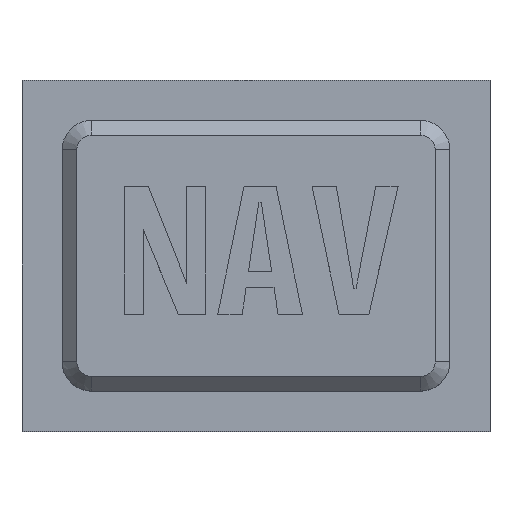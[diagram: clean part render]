
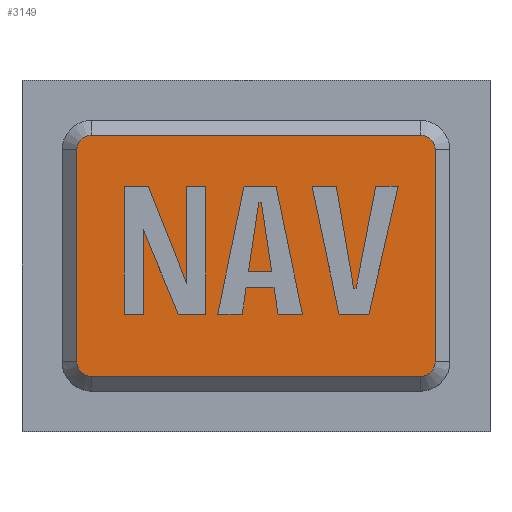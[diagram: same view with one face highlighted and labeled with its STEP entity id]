
A CAD part, top view. The second image highlights one B-rep face of the part: STEP entity #3149.
In plain terms, the highlighted planar face has unit normal (0, 0, 1).
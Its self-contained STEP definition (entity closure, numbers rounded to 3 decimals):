
#2484 = PLANE('',#2485);
#2485 = AXIS2_PLACEMENT_3D('',#2486,#2487,#2488);
#2486 = CARTESIAN_POINT('',(2.375,1.625,4.25));
#2487 = DIRECTION('',(0.,0.707,-0.707));
#2488 = DIRECTION('',(-1.,-0.,-0.));
#2625 = CONICAL_SURFACE('',#2626,1.,0.785);
#2626 = AXIS2_PLACEMENT_3D('',#2627,#2628,#2629);
#2627 = CARTESIAN_POINT('',(2.375,2.375,4.));
#2628 = DIRECTION('',(-0.,-0.,-1.));
#2629 = DIRECTION('',(-1.,0.,0.));
#2641 = VERTEX_POINT('',#2642);
#2642 = CARTESIAN_POINT('',(2.375,1.875,4.5));
#2665 = VERTEX_POINT('',#2666);
#2666 = CARTESIAN_POINT('',(13.625,1.875,4.5));
#2680 = CONICAL_SURFACE('',#2681,1.,0.785);
#2681 = AXIS2_PLACEMENT_3D('',#2682,#2683,#2684);
#2682 = CARTESIAN_POINT('',(13.625,2.375,4.));
#2683 = DIRECTION('',(-0.,-0.,-1.));
#2684 = DIRECTION('',(0.,-1.,0.));
#2692 = EDGE_CURVE('',#2641,#2665,#2693,.T.);
#2693 = SURFACE_CURVE('',#2694,(#2698,#2705),.PCURVE_S1.);
#2694 = LINE('',#2695,#2696);
#2695 = CARTESIAN_POINT('',(2.375,1.875,4.5));
#2696 = VECTOR('',#2697,1.);
#2697 = DIRECTION('',(1.,0.,0.));
#2698 = PCURVE('',#2484,#2699);
#2699 = DEFINITIONAL_REPRESENTATION('',(#2700),#2704);
#2700 = LINE('',#2701,#2702);
#2701 = CARTESIAN_POINT('',(-0.,0.354));
#2702 = VECTOR('',#2703,1.);
#2703 = DIRECTION('',(-1.,0.));
#2704 = ( GEOMETRIC_REPRESENTATION_CONTEXT(2) 
PARAMETRIC_REPRESENTATION_CONTEXT() REPRESENTATION_CONTEXT('2D SPACE',''
  ) );
#2705 = PCURVE('',#2706,#2711);
#2706 = PLANE('',#2707);
#2707 = AXIS2_PLACEMENT_3D('',#2708,#2709,#2710);
#2708 = CARTESIAN_POINT('',(8.,6.,4.5));
#2709 = DIRECTION('',(0.,0.,1.));
#2710 = DIRECTION('',(1.,0.,0.));
#2711 = DEFINITIONAL_REPRESENTATION('',(#2712),#2716);
#2712 = LINE('',#2713,#2714);
#2713 = CARTESIAN_POINT('',(-5.625,-4.125));
#2714 = VECTOR('',#2715,1.);
#2715 = DIRECTION('',(1.,0.));
#2716 = ( GEOMETRIC_REPRESENTATION_CONTEXT(2) 
PARAMETRIC_REPRESENTATION_CONTEXT() REPRESENTATION_CONTEXT('2D SPACE',''
  ) );
#3050 = VERTEX_POINT('',#3051);
#3051 = CARTESIAN_POINT('',(1.875,2.375,4.5));
#3065 = PLANE('',#3066);
#3066 = AXIS2_PLACEMENT_3D('',#3067,#3068,#3069);
#3067 = CARTESIAN_POINT('',(1.625,9.625,4.25));
#3068 = DIRECTION('',(0.707,0.,-0.707));
#3069 = DIRECTION('',(0.,1.,0.));
#3079 = EDGE_CURVE('',#3050,#2641,#3080,.T.);
#3080 = SURFACE_CURVE('',#3081,(#3086,#3093),.PCURVE_S1.);
#3081 = CIRCLE('',#3082,0.5);
#3082 = AXIS2_PLACEMENT_3D('',#3083,#3084,#3085);
#3083 = CARTESIAN_POINT('',(2.375,2.375,4.5));
#3084 = DIRECTION('',(0.,0.,1.));
#3085 = DIRECTION('',(-1.,0.,0.));
#3086 = PCURVE('',#2625,#3087);
#3087 = DEFINITIONAL_REPRESENTATION('',(#3088),#3092);
#3088 = LINE('',#3089,#3090);
#3089 = CARTESIAN_POINT('',(-0.,-0.5));
#3090 = VECTOR('',#3091,1.);
#3091 = DIRECTION('',(-1.,-0.));
#3092 = ( GEOMETRIC_REPRESENTATION_CONTEXT(2) 
PARAMETRIC_REPRESENTATION_CONTEXT() REPRESENTATION_CONTEXT('2D SPACE',''
  ) );
#3093 = PCURVE('',#2706,#3094);
#3094 = DEFINITIONAL_REPRESENTATION('',(#3095),#3099);
#3095 = CIRCLE('',#3096,0.5);
#3096 = AXIS2_PLACEMENT_2D('',#3097,#3098);
#3097 = CARTESIAN_POINT('',(-5.625,-3.625));
#3098 = DIRECTION('',(-1.,0.));
#3099 = ( GEOMETRIC_REPRESENTATION_CONTEXT(2) 
PARAMETRIC_REPRESENTATION_CONTEXT() REPRESENTATION_CONTEXT('2D SPACE',''
  ) );
#3149 = ADVANCED_FACE('',(#3150),#2706,.T.);
#3150 = FACE_BOUND('',#3151,.T.);
#3151 = EDGE_LOOP('',(#3152,#3182,#3211,#3232,#3233,#3234,#3258,#3286));
#3152 = ORIENTED_EDGE('',*,*,#3153,.T.);
#3153 = EDGE_CURVE('',#3154,#3156,#3158,.T.);
#3154 = VERTEX_POINT('',#3155);
#3155 = CARTESIAN_POINT('',(13.625,10.125,4.5));
#3156 = VERTEX_POINT('',#3157);
#3157 = CARTESIAN_POINT('',(2.375,10.125,4.5));
#3158 = SURFACE_CURVE('',#3159,(#3163,#3170),.PCURVE_S1.);
#3159 = LINE('',#3160,#3161);
#3160 = CARTESIAN_POINT('',(13.625,10.125,4.5));
#3161 = VECTOR('',#3162,1.);
#3162 = DIRECTION('',(-1.,0.,0.));
#3163 = PCURVE('',#2706,#3164);
#3164 = DEFINITIONAL_REPRESENTATION('',(#3165),#3169);
#3165 = LINE('',#3166,#3167);
#3166 = CARTESIAN_POINT('',(5.625,4.125));
#3167 = VECTOR('',#3168,1.);
#3168 = DIRECTION('',(-1.,0.));
#3169 = ( GEOMETRIC_REPRESENTATION_CONTEXT(2) 
PARAMETRIC_REPRESENTATION_CONTEXT() REPRESENTATION_CONTEXT('2D SPACE',''
  ) );
#3170 = PCURVE('',#3171,#3176);
#3171 = PLANE('',#3172);
#3172 = AXIS2_PLACEMENT_3D('',#3173,#3174,#3175);
#3173 = CARTESIAN_POINT('',(13.625,10.375,4.25));
#3174 = DIRECTION('',(0.,-0.707,-0.707));
#3175 = DIRECTION('',(1.,0.,0.));
#3176 = DEFINITIONAL_REPRESENTATION('',(#3177),#3181);
#3177 = LINE('',#3178,#3179);
#3178 = CARTESIAN_POINT('',(-0.,0.354));
#3179 = VECTOR('',#3180,1.);
#3180 = DIRECTION('',(-1.,0.));
#3181 = ( GEOMETRIC_REPRESENTATION_CONTEXT(2) 
PARAMETRIC_REPRESENTATION_CONTEXT() REPRESENTATION_CONTEXT('2D SPACE',''
  ) );
#3182 = ORIENTED_EDGE('',*,*,#3183,.T.);
#3183 = EDGE_CURVE('',#3156,#3184,#3186,.T.);
#3184 = VERTEX_POINT('',#3185);
#3185 = CARTESIAN_POINT('',(1.875,9.625,4.5));
#3186 = SURFACE_CURVE('',#3187,(#3192,#3199),.PCURVE_S1.);
#3187 = CIRCLE('',#3188,0.5);
#3188 = AXIS2_PLACEMENT_3D('',#3189,#3190,#3191);
#3189 = CARTESIAN_POINT('',(2.375,9.625,4.5));
#3190 = DIRECTION('',(0.,-0.,1.));
#3191 = DIRECTION('',(0.,1.,0.));
#3192 = PCURVE('',#2706,#3193);
#3193 = DEFINITIONAL_REPRESENTATION('',(#3194),#3198);
#3194 = CIRCLE('',#3195,0.5);
#3195 = AXIS2_PLACEMENT_2D('',#3196,#3197);
#3196 = CARTESIAN_POINT('',(-5.625,3.625));
#3197 = DIRECTION('',(0.,1.));
#3198 = ( GEOMETRIC_REPRESENTATION_CONTEXT(2) 
PARAMETRIC_REPRESENTATION_CONTEXT() REPRESENTATION_CONTEXT('2D SPACE',''
  ) );
#3199 = PCURVE('',#3200,#3205);
#3200 = CONICAL_SURFACE('',#3201,1.,0.785);
#3201 = AXIS2_PLACEMENT_3D('',#3202,#3203,#3204);
#3202 = CARTESIAN_POINT('',(2.375,9.625,4.));
#3203 = DIRECTION('',(-0.,-0.,-1.));
#3204 = DIRECTION('',(0.,1.,0.));
#3205 = DEFINITIONAL_REPRESENTATION('',(#3206),#3210);
#3206 = LINE('',#3207,#3208);
#3207 = CARTESIAN_POINT('',(-0.,-0.5));
#3208 = VECTOR('',#3209,1.);
#3209 = DIRECTION('',(-1.,-0.));
#3210 = ( GEOMETRIC_REPRESENTATION_CONTEXT(2) 
PARAMETRIC_REPRESENTATION_CONTEXT() REPRESENTATION_CONTEXT('2D SPACE',''
  ) );
#3211 = ORIENTED_EDGE('',*,*,#3212,.T.);
#3212 = EDGE_CURVE('',#3184,#3050,#3213,.T.);
#3213 = SURFACE_CURVE('',#3214,(#3218,#3225),.PCURVE_S1.);
#3214 = LINE('',#3215,#3216);
#3215 = CARTESIAN_POINT('',(1.875,9.625,4.5));
#3216 = VECTOR('',#3217,1.);
#3217 = DIRECTION('',(0.,-1.,0.));
#3218 = PCURVE('',#2706,#3219);
#3219 = DEFINITIONAL_REPRESENTATION('',(#3220),#3224);
#3220 = LINE('',#3221,#3222);
#3221 = CARTESIAN_POINT('',(-6.125,3.625));
#3222 = VECTOR('',#3223,1.);
#3223 = DIRECTION('',(0.,-1.));
#3224 = ( GEOMETRIC_REPRESENTATION_CONTEXT(2) 
PARAMETRIC_REPRESENTATION_CONTEXT() REPRESENTATION_CONTEXT('2D SPACE',''
  ) );
#3225 = PCURVE('',#3065,#3226);
#3226 = DEFINITIONAL_REPRESENTATION('',(#3227),#3231);
#3227 = LINE('',#3228,#3229);
#3228 = CARTESIAN_POINT('',(-0.,0.354));
#3229 = VECTOR('',#3230,1.);
#3230 = DIRECTION('',(-1.,0.));
#3231 = ( GEOMETRIC_REPRESENTATION_CONTEXT(2) 
PARAMETRIC_REPRESENTATION_CONTEXT() REPRESENTATION_CONTEXT('2D SPACE',''
  ) );
#3232 = ORIENTED_EDGE('',*,*,#3079,.T.);
#3233 = ORIENTED_EDGE('',*,*,#2692,.T.);
#3234 = ORIENTED_EDGE('',*,*,#3235,.T.);
#3235 = EDGE_CURVE('',#2665,#3236,#3238,.T.);
#3236 = VERTEX_POINT('',#3237);
#3237 = CARTESIAN_POINT('',(14.125,2.375,4.5));
#3238 = SURFACE_CURVE('',#3239,(#3244,#3251),.PCURVE_S1.);
#3239 = CIRCLE('',#3240,0.5);
#3240 = AXIS2_PLACEMENT_3D('',#3241,#3242,#3243);
#3241 = CARTESIAN_POINT('',(13.625,2.375,4.5));
#3242 = DIRECTION('',(-0.,0.,1.));
#3243 = DIRECTION('',(0.,-1.,0.));
#3244 = PCURVE('',#2706,#3245);
#3245 = DEFINITIONAL_REPRESENTATION('',(#3246),#3250);
#3246 = CIRCLE('',#3247,0.5);
#3247 = AXIS2_PLACEMENT_2D('',#3248,#3249);
#3248 = CARTESIAN_POINT('',(5.625,-3.625));
#3249 = DIRECTION('',(0.,-1.));
#3250 = ( GEOMETRIC_REPRESENTATION_CONTEXT(2) 
PARAMETRIC_REPRESENTATION_CONTEXT() REPRESENTATION_CONTEXT('2D SPACE',''
  ) );
#3251 = PCURVE('',#2680,#3252);
#3252 = DEFINITIONAL_REPRESENTATION('',(#3253),#3257);
#3253 = LINE('',#3254,#3255);
#3254 = CARTESIAN_POINT('',(-0.,-0.5));
#3255 = VECTOR('',#3256,1.);
#3256 = DIRECTION('',(-1.,-0.));
#3257 = ( GEOMETRIC_REPRESENTATION_CONTEXT(2) 
PARAMETRIC_REPRESENTATION_CONTEXT() REPRESENTATION_CONTEXT('2D SPACE',''
  ) );
#3258 = ORIENTED_EDGE('',*,*,#3259,.T.);
#3259 = EDGE_CURVE('',#3236,#3260,#3262,.T.);
#3260 = VERTEX_POINT('',#3261);
#3261 = CARTESIAN_POINT('',(14.125,9.625,4.5));
#3262 = SURFACE_CURVE('',#3263,(#3267,#3274),.PCURVE_S1.);
#3263 = LINE('',#3264,#3265);
#3264 = CARTESIAN_POINT('',(14.125,2.375,4.5));
#3265 = VECTOR('',#3266,1.);
#3266 = DIRECTION('',(0.,1.,0.));
#3267 = PCURVE('',#2706,#3268);
#3268 = DEFINITIONAL_REPRESENTATION('',(#3269),#3273);
#3269 = LINE('',#3270,#3271);
#3270 = CARTESIAN_POINT('',(6.125,-3.625));
#3271 = VECTOR('',#3272,1.);
#3272 = DIRECTION('',(0.,1.));
#3273 = ( GEOMETRIC_REPRESENTATION_CONTEXT(2) 
PARAMETRIC_REPRESENTATION_CONTEXT() REPRESENTATION_CONTEXT('2D SPACE',''
  ) );
#3274 = PCURVE('',#3275,#3280);
#3275 = PLANE('',#3276);
#3276 = AXIS2_PLACEMENT_3D('',#3277,#3278,#3279);
#3277 = CARTESIAN_POINT('',(14.375,2.375,4.25));
#3278 = DIRECTION('',(-0.707,0.,-0.707));
#3279 = DIRECTION('',(-0.,-1.,-0.));
#3280 = DEFINITIONAL_REPRESENTATION('',(#3281),#3285);
#3281 = LINE('',#3282,#3283);
#3282 = CARTESIAN_POINT('',(-0.,0.354));
#3283 = VECTOR('',#3284,1.);
#3284 = DIRECTION('',(-1.,0.));
#3285 = ( GEOMETRIC_REPRESENTATION_CONTEXT(2) 
PARAMETRIC_REPRESENTATION_CONTEXT() REPRESENTATION_CONTEXT('2D SPACE',''
  ) );
#3286 = ORIENTED_EDGE('',*,*,#3287,.T.);
#3287 = EDGE_CURVE('',#3260,#3154,#3288,.T.);
#3288 = SURFACE_CURVE('',#3289,(#3294,#3301),.PCURVE_S1.);
#3289 = CIRCLE('',#3290,0.5);
#3290 = AXIS2_PLACEMENT_3D('',#3291,#3292,#3293);
#3291 = CARTESIAN_POINT('',(13.625,9.625,4.5));
#3292 = DIRECTION('',(0.,0.,1.));
#3293 = DIRECTION('',(1.,0.,0.));
#3294 = PCURVE('',#2706,#3295);
#3295 = DEFINITIONAL_REPRESENTATION('',(#3296),#3300);
#3296 = CIRCLE('',#3297,0.5);
#3297 = AXIS2_PLACEMENT_2D('',#3298,#3299);
#3298 = CARTESIAN_POINT('',(5.625,3.625));
#3299 = DIRECTION('',(1.,0.));
#3300 = ( GEOMETRIC_REPRESENTATION_CONTEXT(2) 
PARAMETRIC_REPRESENTATION_CONTEXT() REPRESENTATION_CONTEXT('2D SPACE',''
  ) );
#3301 = PCURVE('',#3302,#3307);
#3302 = CONICAL_SURFACE('',#3303,1.,0.785);
#3303 = AXIS2_PLACEMENT_3D('',#3304,#3305,#3306);
#3304 = CARTESIAN_POINT('',(13.625,9.625,4.));
#3305 = DIRECTION('',(-0.,-0.,-1.));
#3306 = DIRECTION('',(1.,0.,0.));
#3307 = DEFINITIONAL_REPRESENTATION('',(#3308),#3312);
#3308 = LINE('',#3309,#3310);
#3309 = CARTESIAN_POINT('',(-0.,-0.5));
#3310 = VECTOR('',#3311,1.);
#3311 = DIRECTION('',(-1.,-0.));
#3312 = ( GEOMETRIC_REPRESENTATION_CONTEXT(2) 
PARAMETRIC_REPRESENTATION_CONTEXT() REPRESENTATION_CONTEXT('2D SPACE',''
  ) );
